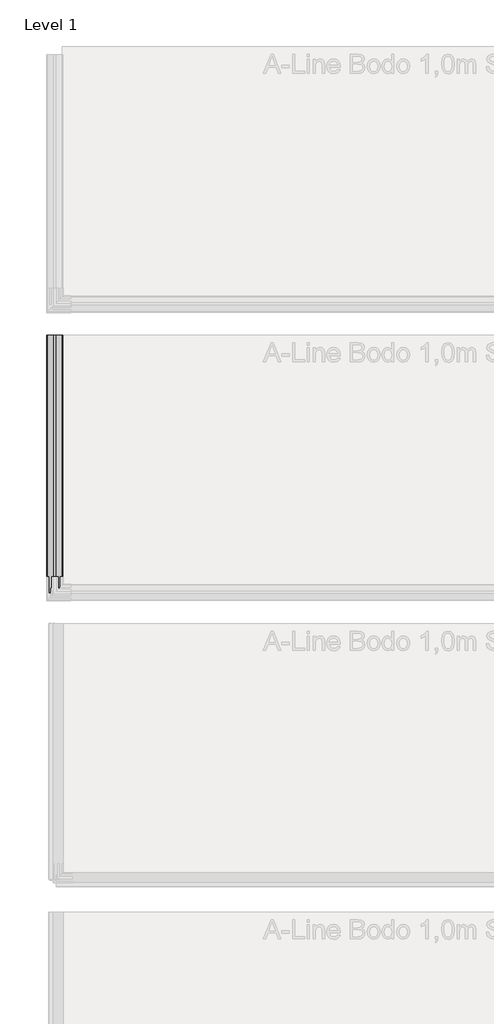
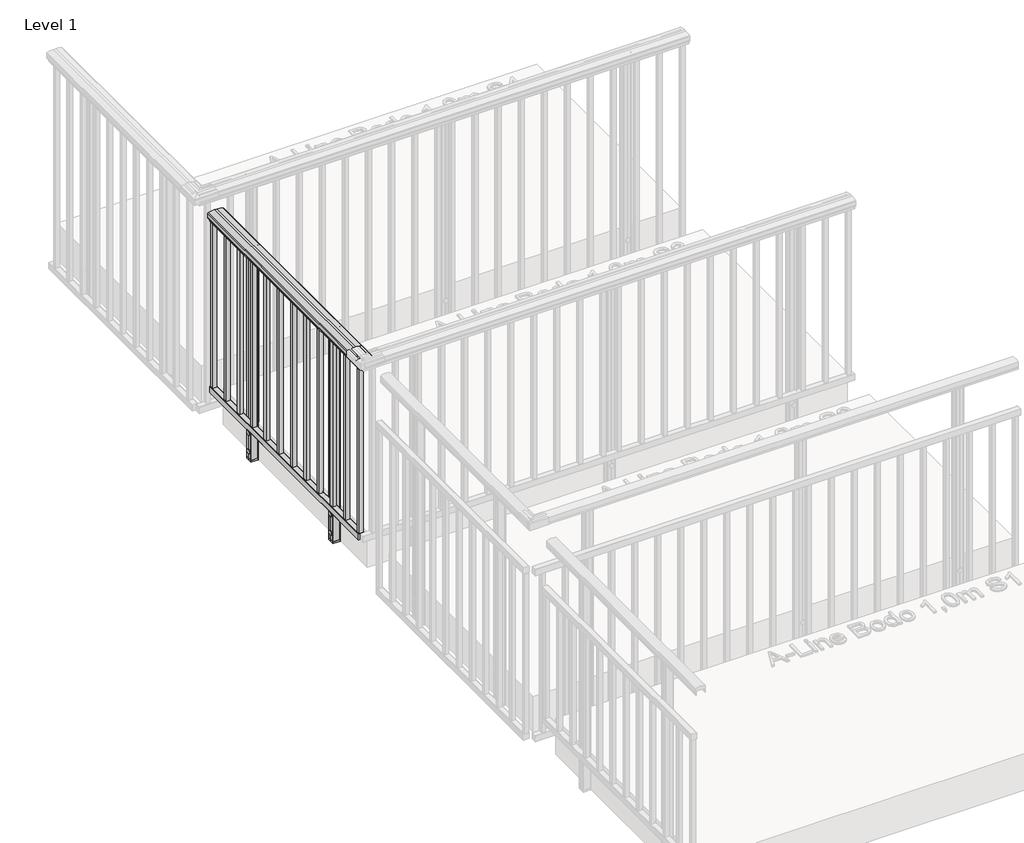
# One storey, part 10 of 66: 1 railing.
"""IFC4 building model written with IfcOpenShell, lengths in millimetres."""

from ifc_helpers import new_model, si_unit, point, frame, frame_2d, origin, place, context, project, spatial, polyline, circle_curve, trimmed, segment, composite_curve, outline, extrude, element, save

model = new_model("IFC4")

# Units and contexts
model_context = context("Model", 3, world=origin())
ifc_project = project(units=[si_unit("LENGTHUNIT", "METRE", prefix="MILLI")], contexts=[model_context])

# Site, building, storey
site = spatial("IfcSite", under=ifc_project)
building = spatial("IfcBuilding", under=site)
storey = spatial("IfcBuildingStorey", under=building, Name="Level 1", Elevation=0.0)

# Railing
placement = place(None, origin())
element("IfcRailing", 1, ObjectType="A-Line Bodo 1,0m S3", at=placement, inside=storey, context=model_context, shape_type="SweptSolid", body=[
    extrude(outline(composite_curve([segment(polyline([(970.6825033, 4424.0540283), (970.0570224, 4424.6795093), (969.4717338, 4424.0942207), (965.5021186, 4424.0540283)]), True, "CONTINUOUS"), segment(trimmed(circle_curve(frame_2d((965.5021186, 4424.5540283)), 0.5), [point((965.5021186, 4424.0540283))], [point((965.0021186, 4424.5540283))], False, "CARTESIAN"), True, "CONTINUOUS"), segment(polyline([(965.0021186, 4424.5540283), (965.0021186, 4425.5540283), (979.5021186, 4425.5540283)]), True, "CONTINUOUS"), segment(trimmed(circle_curve(frame_2d((979.5021186, 4426.0540283)), 0.5), [point((979.5021186, 4425.5540283))], [point((980.0021186, 4426.0540283))], True, "CARTESIAN"), True, "CONTINUOUS"), segment(polyline([(980.0021186, 4426.0540283), (980.0021186, 4504.0540283)]), True, "CONTINUOUS"), segment(trimmed(circle_curve(frame_2d((979.5021186, 4504.0540283)), 0.5), [point((980.0021186, 4504.0540283))], [point((979.5021186, 4504.5540283))], True, "CARTESIAN"), True, "CONTINUOUS"), segment(polyline([(979.5021186, 4504.5540283), (965.0021186, 4504.5540283), (965.0021186, 4505.5540283)]), True, "CONTINUOUS"), segment(trimmed(circle_curve(frame_2d((965.5021186, 4505.5540283)), 0.5), [point((965.0021186, 4505.5540283))], [point((965.5021186, 4506.0540283))], False, "CARTESIAN"), True, "CONTINUOUS"), segment(polyline([(965.5021186, 4506.0540283), (969.2627449, 4506.0540283), (969.9177203, 4505.3990529), (970.5325033, 4506.0138359), (991.2139911, 4506.0540283)]), True, "CONTINUOUS"), segment(trimmed(circle_curve(frame_2d((991.2139911, 4503.0540283)), 3.0), [point((991.2139911, 4506.0540283))], [point((994.0180233, 4504.1205197))], False, "CARTESIAN"), True, "CONTINUOUS"), segment(trimmed(circle_curve(frame_2d((908.3938053, 4471.5540283)), 91.6083133), [point((994.0180233, 4504.1205197))], [point((1000.0021186, 4471.5540283))], False, "CARTESIAN"), True, "CONTINUOUS"), segment(polyline([(1000.0021186, 4471.5540283), (1000.0021186, 4458.5540283)]), True, "CONTINUOUS"), segment(trimmed(circle_curve(frame_2d((908.3938053, 4458.5540283)), 91.6083133), [point((1000.0021186, 4458.5540283))], [point((994.0180233, 4425.987537))], False, "CARTESIAN"), True, "CONTINUOUS"), segment(trimmed(circle_curve(frame_2d((991.2139911, 4427.0540283)), 3.0), [point((994.0180233, 4425.987537))], [point((991.2139911, 4424.0540283))], False, "CARTESIAN"), True, "CONTINUOUS"), segment(polyline([(991.2139911, 4424.0540283), (970.6825033, 4424.0540283)]), True, "CONTINUOUS")], self_intersect=False)), frame((0.0, -14609.7113559, 0.0), z_axis=(0.0, 1.0, 0.0), x_axis=(0.0, 0.0, 1.0)), (0.0, 0.0, 1.0), 1340.0),
    extrude(outline(composite_curve([segment(polyline([(977.0, 4434.5047322), (944.8, 4434.5047322)]), True, "CONTINUOUS"), segment(trimmed(circle_curve(frame_2d((944.8, 4435.5047322)), 1.0), [point((944.8, 4434.5047322))], [point((943.8, 4435.5047322))], False, "CARTESIAN"), True, "CONTINUOUS"), segment(polyline([(943.8, 4435.5047322), (943.8, 4462.6047322)]), True, "CONTINUOUS"), segment(trimmed(circle_curve(frame_2d((944.8, 4462.6047322)), 1.0), [point((943.8, 4462.6047322))], [point((944.8, 4463.6047322))], False, "CARTESIAN"), True, "CONTINUOUS"), segment(polyline([(944.8, 4463.6047322), (977.0, 4463.6047322)]), True, "CONTINUOUS"), segment(trimmed(circle_curve(frame_2d((977.0, 4462.6047322)), 1.0), [point((977.0, 4463.6047322))], [point((978.0, 4462.6047322))], False, "CARTESIAN"), True, "CONTINUOUS"), segment(polyline([(978.0, 4462.6047322), (978.0, 4435.5047322)]), True, "CONTINUOUS"), segment(trimmed(circle_curve(frame_2d((977.0, 4435.5047322)), 1.0), [point((978.0, 4435.5047322))], [point((977.0, 4434.5047322))], False, "CARTESIAN"), True, "CONTINUOUS")], self_intersect=False)), frame((0.0, -14609.7113559, 0.0), z_axis=(0.0, 1.0, 0.0), x_axis=(0.0, 0.0, 1.0)), (0.0, 0.0, 1.0), 1340.0),
    extrude(outline(composite_curve([segment(trimmed(circle_curve(frame_2d((33.2, 4435.5047322)), 1.0), [point((34.2, 4435.5047322))], [point((33.2, 4434.5047322))], False, "CARTESIAN"), True, "CONTINUOUS"), segment(polyline([(33.2, 4434.5047322), (1.0, 4434.5047322)]), True, "CONTINUOUS"), segment(trimmed(circle_curve(frame_2d((1.0, 4435.5047322)), 1.0), [point((1.0, 4434.5047322))], [point((0.0, 4435.5047322))], False, "CARTESIAN"), True, "CONTINUOUS"), segment(polyline([(0.0, 4435.5047322), (0.0, 4462.6047322)]), True, "CONTINUOUS"), segment(trimmed(circle_curve(frame_2d((1.0, 4462.6047322)), 1.0), [point((0.0, 4462.6047322))], [point((1.0, 4463.6047322))], False, "CARTESIAN"), True, "CONTINUOUS"), segment(polyline([(1.0, 4463.6047322), (33.2, 4463.6047322)]), True, "CONTINUOUS"), segment(trimmed(circle_curve(frame_2d((33.2, 4462.6047322)), 1.0), [point((33.2, 4463.6047322))], [point((34.2, 4462.6047322))], False, "CARTESIAN"), True, "CONTINUOUS"), segment(polyline([(34.2, 4462.6047322), (34.2, 4435.5047322)]), True, "CONTINUOUS")], self_intersect=False)), frame((0.0, -14609.7113559, 0.0), z_axis=(0.0, 1.0, 0.0), x_axis=(0.0, 0.0, 1.0)), (0.0, 0.0, 1.0), 1340.0),
    extrude(outline(polyline([(4439.0547322, -14589.7113559), (4459.0547322, -14589.7113559), (4459.0547322, -14609.7113559), (4439.0547322, -14609.7113559), (4439.0547322, -14589.7113559)]), holes=[polyline([(4441.0547322, -14591.7113559), (4441.0547322, -14607.7113559), (4457.0547322, -14607.7113559), (4457.0547322, -14591.7113559), (4441.0547322, -14591.7113559)])]), frame((0.0, 0.0, 34.0), z_axis=(0.0, 0.0, 1.0), x_axis=(1.0, 0.0, 0.0)), (0.0, 0.0, 1.0), 910.0),
    extrude(outline(polyline([(4439.0547322, -14469.7113559), (4459.0547322, -14469.7113559), (4459.0547322, -14489.7113559), (4439.0547322, -14489.7113559), (4439.0547322, -14469.7113559)]), holes=[polyline([(4441.0547322, -14471.7113559), (4441.0547322, -14487.7113559), (4457.0547322, -14487.7113559), (4457.0547322, -14471.7113559), (4441.0547322, -14471.7113559)])]), frame((0.0, 0.0, 34.0), z_axis=(0.0, 0.0, 1.0), x_axis=(1.0, 0.0, 0.0)), (0.0, 0.0, 1.0), 910.0),
    extrude(outline(polyline([(4439.0547322, -14349.7113559), (4459.0547322, -14349.7113559), (4459.0547322, -14369.7113559), (4439.0547322, -14369.7113559), (4439.0547322, -14349.7113559)]), holes=[polyline([(4441.0547322, -14351.7113559), (4441.0547322, -14367.7113559), (4457.0547322, -14367.7113559), (4457.0547322, -14351.7113559), (4441.0547322, -14351.7113559)])]), frame((0.0, 0.0, 34.0), z_axis=(0.0, 0.0, 1.0), x_axis=(1.0, 0.0, 0.0)), (0.0, 0.0, 1.0), 910.0),
    extrude(outline(polyline([(4439.0547322, -14229.7113559), (4459.0547322, -14229.7113559), (4459.0547322, -14249.7113559), (4439.0547322, -14249.7113559), (4439.0547322, -14229.7113559)]), holes=[polyline([(4441.0547322, -14231.7113559), (4441.0547322, -14247.7113559), (4457.0547322, -14247.7113559), (4457.0547322, -14231.7113559), (4441.0547322, -14231.7113559)])]), frame((0.0, 0.0, 34.0), z_axis=(0.0, 0.0, 1.0), x_axis=(1.0, 0.0, 0.0)), (0.0, 0.0, 1.0), 910.0),
    extrude(outline(polyline([(4439.0547322, -14109.7113559), (4459.0547322, -14109.7113559), (4459.0547322, -14129.7113559), (4439.0547322, -14129.7113559), (4439.0547322, -14109.7113559)]), holes=[polyline([(4441.0547322, -14111.7113559), (4441.0547322, -14127.7113559), (4457.0547322, -14127.7113559), (4457.0547322, -14111.7113559), (4441.0547322, -14111.7113559)])]), frame((0.0, 0.0, 34.0), z_axis=(0.0, 0.0, 1.0), x_axis=(1.0, 0.0, 0.0)), (0.0, 0.0, 1.0), 910.0),
    extrude(outline(polyline([(4439.0547322, -13989.7113559), (4459.0547322, -13989.7113559), (4459.0547322, -14009.7113559), (4439.0547322, -14009.7113559), (4439.0547322, -13989.7113559)]), holes=[polyline([(4441.0547322, -13991.7113559), (4441.0547322, -14007.7113559), (4457.0547322, -14007.7113559), (4457.0547322, -13991.7113559), (4441.0547322, -13991.7113559)])]), frame((0.0, 0.0, 34.0), z_axis=(0.0, 0.0, 1.0), x_axis=(1.0, 0.0, 0.0)), (0.0, 0.0, 1.0), 910.0),
    extrude(outline(polyline([(4439.0547322, -13869.7113559), (4459.0547322, -13869.7113559), (4459.0547322, -13889.7113559), (4439.0547322, -13889.7113559), (4439.0547322, -13869.7113559)]), holes=[polyline([(4441.0547322, -13871.7113559), (4441.0547322, -13887.7113559), (4457.0547322, -13887.7113559), (4457.0547322, -13871.7113559), (4441.0547322, -13871.7113559)])]), frame((0.0, 0.0, 34.0), z_axis=(0.0, 0.0, 1.0), x_axis=(1.0, 0.0, 0.0)), (0.0, 0.0, 1.0), 910.0),
    extrude(outline(polyline([(4439.0547322, -13749.7113559), (4459.0547322, -13749.7113559), (4459.0547322, -13769.7113559), (4439.0547322, -13769.7113559), (4439.0547322, -13749.7113559)]), holes=[polyline([(4441.0547322, -13751.7113559), (4441.0547322, -13767.7113559), (4457.0547322, -13767.7113559), (4457.0547322, -13751.7113559), (4441.0547322, -13751.7113559)])]), frame((0.0, 0.0, 34.0), z_axis=(0.0, 0.0, 1.0), x_axis=(1.0, 0.0, 0.0)), (0.0, 0.0, 1.0), 910.0),
    extrude(outline(polyline([(4439.0547322, -13629.7113559), (4459.0547322, -13629.7113559), (4459.0547322, -13649.7113559), (4439.0547322, -13649.7113559), (4439.0547322, -13629.7113559)]), holes=[polyline([(4441.0547322, -13631.7113559), (4441.0547322, -13647.7113559), (4457.0547322, -13647.7113559), (4457.0547322, -13631.7113559), (4441.0547322, -13631.7113559)])]), frame((0.0, 0.0, 34.0), z_axis=(0.0, 0.0, 1.0), x_axis=(1.0, 0.0, 0.0)), (0.0, 0.0, 1.0), 910.0),
    extrude(outline(polyline([(4439.0547322, -13509.7113559), (4459.0547322, -13509.7113559), (4459.0547322, -13529.7113559), (4439.0547322, -13529.7113559), (4439.0547322, -13509.7113559)]), holes=[polyline([(4441.0547322, -13511.7113559), (4441.0547322, -13527.7113559), (4457.0547322, -13527.7113559), (4457.0547322, -13511.7113559), (4441.0547322, -13511.7113559)])]), frame((0.0, 0.0, 34.0), z_axis=(0.0, 0.0, 1.0), x_axis=(1.0, 0.0, 0.0)), (0.0, 0.0, 1.0), 910.0),
    extrude(outline(polyline([(4439.0547322, -13389.7113559), (4459.0547322, -13389.7113559), (4459.0547322, -13409.7113559), (4439.0547322, -13409.7113559), (4439.0547322, -13389.7113559)]), holes=[polyline([(4441.0547322, -13391.7113559), (4441.0547322, -13407.7113559), (4457.0547322, -13407.7113559), (4457.0547322, -13391.7113559), (4441.0547322, -13391.7113559)])]), frame((0.0, 0.0, 34.0), z_axis=(0.0, 0.0, 1.0), x_axis=(1.0, 0.0, 0.0)), (0.0, 0.0, 1.0), 910.0),
    extrude(outline(polyline([(4439.0547322, -13269.7113559), (4459.0547322, -13269.7113559), (4459.0547322, -13289.7113559), (4439.0547322, -13289.7113559), (4439.0547322, -13269.7113559)]), holes=[polyline([(4441.0547322, -13271.7113559), (4441.0547322, -13287.7113559), (4457.0547322, -13287.7113559), (4457.0547322, -13271.7113559), (4441.0547322, -13271.7113559)])]), frame((0.0, 0.0, 34.0), z_axis=(0.0, 0.0, 1.0), x_axis=(1.0, 0.0, 0.0)), (0.0, 0.0, 1.0), 910.0),
    extrude(outline(composite_curve([segment(polyline([(4504.0547322, -14310.5141429), (4504.0547322, -14327.5374429)]), True, "CONTINUOUS"), segment(trimmed(circle_curve(frame_2d((4501.8808192, -14327.5374429)), 2.173913), [point((4504.0547322, -14327.5374429))], [point((4501.8808192, -14329.7113559))], False, "CARTESIAN"), True, "CONTINUOUS"), segment(polyline([(4501.8808192, -14329.7113559), (4466.2286453, -14329.7113559)]), True, "CONTINUOUS"), segment(trimmed(circle_curve(frame_2d((4466.2286453, -14327.5374429)), 2.173913), [point((4466.2286453, -14329.7113559))], [point((4464.0547322, -14327.5374429))], False, "CARTESIAN"), True, "CONTINUOUS"), segment(polyline([(4464.0547322, -14327.5374429), (4464.0896821, -14310.479193), (4464.8575193, -14309.7113559), (4464.0896821, -14308.9435188), (4464.0547322, -14291.885269)]), True, "CONTINUOUS"), segment(trimmed(circle_curve(frame_2d((4466.2286453, -14291.885269)), 2.173913), [point((4464.0547322, -14291.885269))], [point((4466.2286453, -14289.7113559))], False, "CARTESIAN"), True, "CONTINUOUS"), segment(polyline([(4466.2286453, -14289.7113559), (4501.8808192, -14289.7113559)]), True, "CONTINUOUS"), segment(trimmed(circle_curve(frame_2d((4501.8808192, -14291.885269)), 2.173913), [point((4501.8808192, -14289.7113559))], [point((4504.0547322, -14291.8852689))], False, "CARTESIAN"), True, "CONTINUOUS"), segment(polyline([(4504.0547322, -14291.8852689), (4504.0197823, -14308.9435188), (4503.2519452, -14309.7113559), (4504.0547322, -14310.5141429)]), True, "CONTINUOUS")], self_intersect=False)), frame((0.0, 0.0, -200.0), z_axis=(0.0, 0.0, 1.0), x_axis=(1.0, 0.0, 0.0)), (0.0, 0.0, 1.0), 10.0),
    extrude(outline(composite_curve([segment(trimmed(circle_curve(frame_2d((4501.8808192, -14291.885269)), 2.173913), [point((4501.8808192, -14289.7113559))], [point((4504.0547322, -14291.885269))], False, "CARTESIAN"), True, "CONTINUOUS"), segment(polyline([(4504.0547322, -14291.885269), (4504.0197823, -14308.9435188), (4503.6517779, -14309.8417907), (4504.0547322, -14310.6096278), (4504.0547322, -14327.5374429)]), True, "CONTINUOUS"), segment(trimmed(circle_curve(frame_2d((4501.8808192, -14327.5374429)), 2.173913), [point((4504.0547322, -14327.5374429))], [point((4501.8808192, -14329.7113559))], False, "CARTESIAN"), True, "CONTINUOUS"), segment(polyline([(4501.8808192, -14329.7113559), (4466.2286453, -14329.7113559)]), True, "CONTINUOUS"), segment(trimmed(circle_curve(frame_2d((4466.2286453, -14327.5374429)), 2.173913), [point((4466.2286453, -14329.7113559))], [point((4464.0547322, -14327.5374429))], False, "CARTESIAN"), True, "CONTINUOUS"), segment(polyline([(4464.0547322, -14327.5374429), (4464.0896821, -14310.479193), (4464.8575193, -14309.7113559), (4464.0896821, -14308.9435188), (4464.0547322, -14291.885269)]), True, "CONTINUOUS"), segment(trimmed(circle_curve(frame_2d((4466.2286453, -14291.885269)), 2.173913), [point((4464.0547322, -14291.885269))], [point((4466.2286453, -14289.7113559))], False, "CARTESIAN"), True, "CONTINUOUS"), segment(polyline([(4466.2286453, -14289.7113559), (4501.8808192, -14289.7113559)]), True, "CONTINUOUS")], self_intersect=False), holes=[composite_curve([segment(polyline([(4499.7069062, -14293.1896168), (4468.4025583, -14293.1896168)]), True, "CONTINUOUS"), segment(trimmed(circle_curve(frame_2d((4468.4025583, -14294.059182)), 0.8695652), [point((4468.4025583, -14293.1896168))], [point((4467.5329931, -14294.059182))], True, "CARTESIAN"), True, "CONTINUOUS"), segment(polyline([(4467.5329931, -14294.059182), (4467.5329931, -14325.3635298)]), True, "CONTINUOUS"), segment(trimmed(circle_curve(frame_2d((4468.4025583, -14325.3635298)), 0.8695652), [point((4467.5329931, -14325.3635298))], [point((4468.4025583, -14326.233095))], True, "CARTESIAN"), True, "CONTINUOUS"), segment(polyline([(4468.4025583, -14326.233095), (4499.7069062, -14326.233095)]), True, "CONTINUOUS"), segment(trimmed(circle_curve(frame_2d((4499.7069062, -14325.3635298)), 0.8695652), [point((4499.7069062, -14326.233095))], [point((4500.5764714, -14325.3635298))], True, "CARTESIAN"), True, "CONTINUOUS"), segment(polyline([(4500.5764714, -14325.3635298), (4500.5764714, -14294.059182)]), True, "CONTINUOUS"), segment(trimmed(circle_curve(frame_2d((4499.7069062, -14294.059182)), 0.8695652), [point((4500.5764714, -14294.059182))], [point((4499.7069062, -14293.1896168))], True, "CARTESIAN"), True, "CONTINUOUS")], self_intersect=False)]), frame((0.0, 0.0, -190.0), z_axis=(0.0, 0.0, 1.0), x_axis=(1.0, 0.0, 0.0)), (0.0, 0.0, 1.0), 1171.0),
    extrude(outline(composite_curve([segment(trimmed(circle_curve(frame_2d((0.0, 12.0000001)), 12.0), [point((0.0, 24.0))], [point((0.0, 0.0))], False, "CARTESIAN"), True, "CONTINUOUS"), segment(trimmed(circle_curve(frame_2d((0.0, 12.0000001)), 12.0), [point((0.0, 0.0))], [point((0.0, 24.0))], False, "CARTESIAN"), True, "CONTINUOUS")], self_intersect=False)), frame((4464.0666505, -14297.7023183, -151.0), z_axis=(-0.9999999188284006, 0.00040291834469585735, 0.0), x_axis=(0.0, 0.0, -1.0)), (0.0, 0.0, 1.0), 3.0757477),
    extrude(outline(composite_curve([segment(trimmed(circle_curve(frame_2d((0.0, 12.0000001)), 12.0), [point((0.0, 24.0))], [point((0.0, 0.0))], False, "CARTESIAN"), True, "CONTINUOUS"), segment(trimmed(circle_curve(frame_2d((0.0, 12.0000001)), 12.0), [point((0.0, 0.0))], [point((0.0, 24.0))], False, "CARTESIAN"), True, "CONTINUOUS")], self_intersect=False)), frame((4464.0666505, -14297.7023183, -50.0), z_axis=(-0.9999999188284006, 0.00040291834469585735, 0.0), x_axis=(0.0, 0.0, -1.0)), (0.0, 0.0, 1.0), 3.0757477),
    extrude(outline(composite_curve([segment(polyline([(4504.0547322, -13570.5141429), (4504.0547322, -13587.5374429)]), True, "CONTINUOUS"), segment(trimmed(circle_curve(frame_2d((4501.8808192, -13587.5374429)), 2.173913), [point((4504.0547322, -13587.5374429))], [point((4501.8808192, -13589.7113559))], False, "CARTESIAN"), True, "CONTINUOUS"), segment(polyline([(4501.8808192, -13589.7113559), (4466.2286453, -13589.7113559)]), True, "CONTINUOUS"), segment(trimmed(circle_curve(frame_2d((4466.2286453, -13587.5374429)), 2.173913), [point((4466.2286453, -13589.7113559))], [point((4464.0547322, -13587.5374429))], False, "CARTESIAN"), True, "CONTINUOUS"), segment(polyline([(4464.0547322, -13587.5374429), (4464.0896821, -13570.479193), (4464.8575193, -13569.7113559), (4464.0896821, -13568.9435188), (4464.0547322, -13551.885269)]), True, "CONTINUOUS"), segment(trimmed(circle_curve(frame_2d((4466.2286453, -13551.885269)), 2.173913), [point((4464.0547322, -13551.885269))], [point((4466.2286453, -13549.7113559))], False, "CARTESIAN"), True, "CONTINUOUS"), segment(polyline([(4466.2286453, -13549.7113559), (4501.8808192, -13549.7113559)]), True, "CONTINUOUS"), segment(trimmed(circle_curve(frame_2d((4501.8808192, -13551.885269)), 2.173913), [point((4501.8808192, -13549.7113559))], [point((4504.0547322, -13551.8852689))], False, "CARTESIAN"), True, "CONTINUOUS"), segment(polyline([(4504.0547322, -13551.8852689), (4504.0197823, -13568.9435188), (4503.2519452, -13569.7113559), (4504.0547322, -13570.5141429)]), True, "CONTINUOUS")], self_intersect=False)), frame((0.0, 0.0, -200.0), z_axis=(0.0, 0.0, 1.0), x_axis=(1.0, 0.0, 0.0)), (0.0, 0.0, 1.0), 10.0),
    extrude(outline(composite_curve([segment(trimmed(circle_curve(frame_2d((4501.8808192, -13551.885269)), 2.173913), [point((4501.8808192, -13549.7113559))], [point((4504.0547322, -13551.885269))], False, "CARTESIAN"), True, "CONTINUOUS"), segment(polyline([(4504.0547322, -13551.885269), (4504.0197823, -13568.9435188), (4503.6517779, -13569.8417907), (4504.0547322, -13570.6096278), (4504.0547322, -13587.5374429)]), True, "CONTINUOUS"), segment(trimmed(circle_curve(frame_2d((4501.8808192, -13587.5374429)), 2.173913), [point((4504.0547322, -13587.5374429))], [point((4501.8808192, -13589.7113559))], False, "CARTESIAN"), True, "CONTINUOUS"), segment(polyline([(4501.8808192, -13589.7113559), (4466.2286453, -13589.7113559)]), True, "CONTINUOUS"), segment(trimmed(circle_curve(frame_2d((4466.2286453, -13587.5374429)), 2.173913), [point((4466.2286453, -13589.7113559))], [point((4464.0547322, -13587.5374429))], False, "CARTESIAN"), True, "CONTINUOUS"), segment(polyline([(4464.0547322, -13587.5374429), (4464.0896821, -13570.479193), (4464.8575193, -13569.7113559), (4464.0896821, -13568.9435188), (4464.0547322, -13551.885269)]), True, "CONTINUOUS"), segment(trimmed(circle_curve(frame_2d((4466.2286453, -13551.885269)), 2.173913), [point((4464.0547322, -13551.885269))], [point((4466.2286453, -13549.7113559))], False, "CARTESIAN"), True, "CONTINUOUS"), segment(polyline([(4466.2286453, -13549.7113559), (4501.8808192, -13549.7113559)]), True, "CONTINUOUS")], self_intersect=False), holes=[composite_curve([segment(polyline([(4499.7069062, -13553.1896168), (4468.4025583, -13553.1896168)]), True, "CONTINUOUS"), segment(trimmed(circle_curve(frame_2d((4468.4025583, -13554.059182)), 0.8695652), [point((4468.4025583, -13553.1896168))], [point((4467.5329931, -13554.059182))], True, "CARTESIAN"), True, "CONTINUOUS"), segment(polyline([(4467.5329931, -13554.059182), (4467.5329931, -13585.3635298)]), True, "CONTINUOUS"), segment(trimmed(circle_curve(frame_2d((4468.4025583, -13585.3635298)), 0.8695652), [point((4467.5329931, -13585.3635298))], [point((4468.4025583, -13586.233095))], True, "CARTESIAN"), True, "CONTINUOUS"), segment(polyline([(4468.4025583, -13586.233095), (4499.7069062, -13586.233095)]), True, "CONTINUOUS"), segment(trimmed(circle_curve(frame_2d((4499.7069062, -13585.3635298)), 0.8695652), [point((4499.7069062, -13586.233095))], [point((4500.5764714, -13585.3635298))], True, "CARTESIAN"), True, "CONTINUOUS"), segment(polyline([(4500.5764714, -13585.3635298), (4500.5764714, -13554.059182)]), True, "CONTINUOUS"), segment(trimmed(circle_curve(frame_2d((4499.7069062, -13554.059182)), 0.8695652), [point((4500.5764714, -13554.059182))], [point((4499.7069062, -13553.1896168))], True, "CARTESIAN"), True, "CONTINUOUS")], self_intersect=False)]), frame((0.0, 0.0, -190.0), z_axis=(0.0, 0.0, 1.0), x_axis=(1.0, 0.0, 0.0)), (0.0, 0.0, 1.0), 1171.0),
    extrude(outline(composite_curve([segment(trimmed(circle_curve(frame_2d((0.0, 12.0000001)), 12.0), [point((0.0, 24.0))], [point((0.0, 0.0))], False, "CARTESIAN"), True, "CONTINUOUS"), segment(trimmed(circle_curve(frame_2d((0.0, 12.0000001)), 12.0), [point((0.0, 0.0))], [point((0.0, 24.0))], False, "CARTESIAN"), True, "CONTINUOUS")], self_intersect=False)), frame((4464.0666505, -13557.7023183, -151.0), z_axis=(-0.9999999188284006, 0.00040291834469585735, 0.0), x_axis=(0.0, 0.0, -1.0)), (0.0, 0.0, 1.0), 3.0757477),
    extrude(outline(composite_curve([segment(trimmed(circle_curve(frame_2d((0.0, 12.0000001)), 12.0), [point((0.0, 24.0))], [point((0.0, 0.0))], False, "CARTESIAN"), True, "CONTINUOUS"), segment(trimmed(circle_curve(frame_2d((0.0, 12.0000001)), 12.0), [point((0.0, 0.0))], [point((0.0, 24.0))], False, "CARTESIAN"), True, "CONTINUOUS")], self_intersect=False)), frame((4464.0666505, -13557.7023183, -50.0), z_axis=(-0.9999999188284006, 0.00040291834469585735, 0.0), x_axis=(0.0, 0.0, -1.0)), (0.0, 0.0, 1.0), 3.0757477),
])

save(model, "model.ifc")
